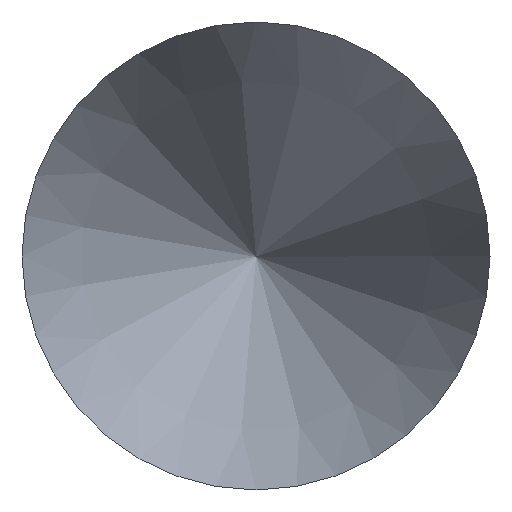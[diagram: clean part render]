
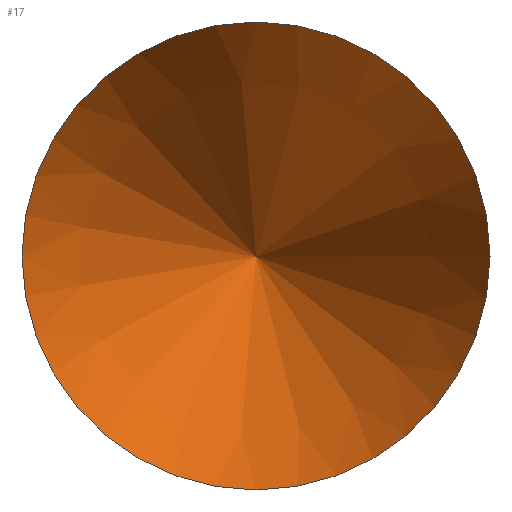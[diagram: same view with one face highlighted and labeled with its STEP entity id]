
A CAD part, top view. The second image highlights one B-rep face of the part: STEP entity #17.
In plain terms, the highlighted conical face has half-angle 26.565 degrees and reference radius 5 mm.
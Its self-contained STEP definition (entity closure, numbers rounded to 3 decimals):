
#1=CARTESIAN_POINT('',(0.,0.,0.));
#2=CARTESIAN_POINT('',(5.,0.,0.));
#3=CARTESIAN_POINT('',(0.,0.,-10.));
#4=VERTEX_POINT('',#2);
#5=VERTEX_POINT('',#3);
#6=DIRECTION('',(0.,0.,1.));
#7=DIRECTION('',(1.,0.,0.));
#8=AXIS2_PLACEMENT_3D('',#1,#6,#7);
#9=CIRCLE('',#8,5.);
#10=EDGE_CURVE('',#4,#4,#9,.T.);
#11=ORIENTED_EDGE('',*,*,#10,.T.);
#12=EDGE_LOOP('',(#11));
#13=VERTEX_LOOP('',#5);
#14=FACE_BOUND('',#13,.T.);
#15=FACE_OUTER_BOUND('',#12,.T.);
#16=CONICAL_SURFACE('',#8,5.,0.464);
#17=ADVANCED_FACE('',(#14,#15),#16,.T.);
